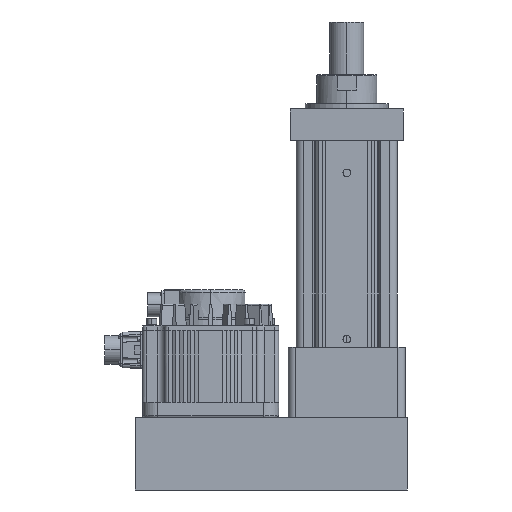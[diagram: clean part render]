
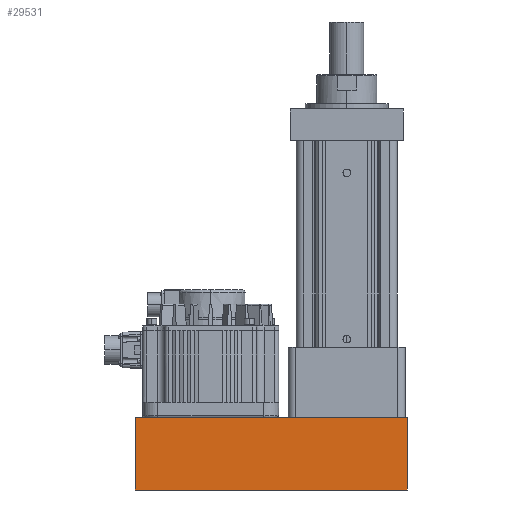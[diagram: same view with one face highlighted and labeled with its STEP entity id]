
A CAD part, left-side view. The second image highlights one B-rep face of the part: STEP entity #29531.
In plain terms, the highlighted planar face has unit normal (-1, 0, 0).
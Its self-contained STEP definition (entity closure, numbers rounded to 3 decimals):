
#789 = VECTOR ( 'NONE', #25022, 1000. ) ;
#1217 = DIRECTION ( 'NONE',  ( 0., 0., 1. ) ) ;
#2033 = CARTESIAN_POINT ( 'NONE',  ( -90., -80., -189. ) ) ;
#2600 = VECTOR ( 'NONE', #8683, 1000. ) ;
#3147 = EDGE_LOOP ( 'NONE', ( #10993, #20109, #7643, #23349 ) ) ;
#4719 = CARTESIAN_POINT ( 'NONE',  ( -90., -80., -93. ) ) ;
#4775 = EDGE_CURVE ( 'NONE', #10026, #26161, #9041, .T. ) ;
#5299 = VERTEX_POINT ( 'NONE', #8953 ) ;
#5449 = LINE ( 'NONE', #4719, #789 ) ;
#5922 = VECTOR ( 'NONE', #25398, 1000. ) ;
#7643 = ORIENTED_EDGE ( 'NONE', *, *, #12659, .F. ) ;
#8483 = CARTESIAN_POINT ( 'NONE',  ( -90., 280., -189. ) ) ;
#8683 = DIRECTION ( 'NONE',  ( 0., 0., 1. ) ) ;
#8953 = CARTESIAN_POINT ( 'NONE',  ( -90., -80., -93. ) ) ;
#9041 = LINE ( 'NONE', #8483, #2600 ) ;
#10026 = VERTEX_POINT ( 'NONE', #13147 ) ;
#10993 = ORIENTED_EDGE ( 'NONE', *, *, #24753, .T. ) ;
#11001 = PLANE ( 'NONE',  #23710 ) ;
#12659 = EDGE_CURVE ( 'NONE', #23696, #10026, #18054, .T. ) ;
#13147 = CARTESIAN_POINT ( 'NONE',  ( -90., 280., -189. ) ) ;
#14969 = CARTESIAN_POINT ( 'NONE',  ( -90., -80., -189. ) ) ;
#17061 = CARTESIAN_POINT ( 'NONE',  ( -90., -80., -189. ) ) ;
#18054 = LINE ( 'NONE', #27596, #5922 ) ;
#18082 = DIRECTION ( 'NONE',  ( 0., 0., -1. ) ) ;
#19061 = EDGE_CURVE ( 'NONE', #23696, #5299, #28759, .T. ) ;
#20109 = ORIENTED_EDGE ( 'NONE', *, *, #4775, .F. ) ;
#20955 = VECTOR ( 'NONE', #1217, 1000. ) ;
#23349 = ORIENTED_EDGE ( 'NONE', *, *, #19061, .T. ) ;
#23696 = VERTEX_POINT ( 'NONE', #17061 ) ;
#23710 = AXIS2_PLACEMENT_3D ( 'NONE', #2033, #29424, #18082 ) ;
#24113 = CARTESIAN_POINT ( 'NONE',  ( -90., 280., -93. ) ) ;
#24753 = EDGE_CURVE ( 'NONE', #5299, #26161, #5449, .T. ) ;
#25022 = DIRECTION ( 'NONE',  ( 0., 1., 0. ) ) ;
#25398 = DIRECTION ( 'NONE',  ( 0., 1., 0. ) ) ;
#25526 = FACE_OUTER_BOUND ( 'NONE', #3147, .T. ) ;
#26161 = VERTEX_POINT ( 'NONE', #24113 ) ;
#27596 = CARTESIAN_POINT ( 'NONE',  ( -90., -80., -189. ) ) ;
#28759 = LINE ( 'NONE', #14969, #20955 ) ;
#29424 = DIRECTION ( 'NONE',  ( 1., 0., 0. ) ) ;
#29531 = ADVANCED_FACE ( 'NONE', ( #25526 ), #11001, .F. ) ;
